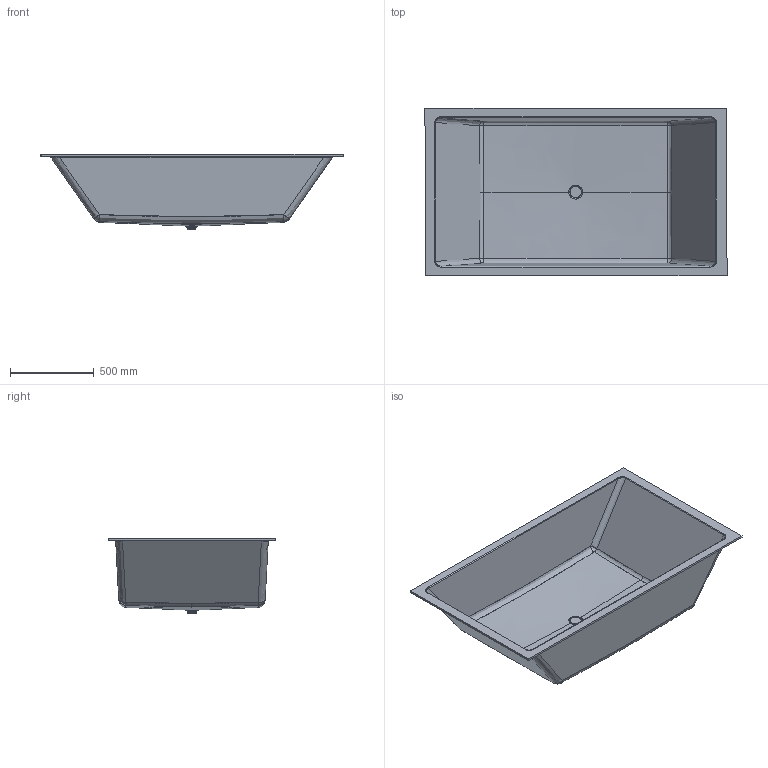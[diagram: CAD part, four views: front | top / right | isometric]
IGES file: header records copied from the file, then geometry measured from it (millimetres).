
Global section: file name: D:\Desktop\GIOVANNI\SCHEDE PRODOTTO\VASCHE\VASCHE DA INCASSO\MIAMI INCA\3D\MIAMI INCA.igs; native system: Rhinoceros ( Jan 17 2018 ); preprocessor: Trout Lake IGES 012 Jan 17 2018; date: 230526.153835; units: millimetre
Bounding box: 1804.17 x 1000.55 x 450.96 mm (x, y, z)
Surface area: 6280664.9 mm2 (no closed solid volume)
Topology: 0 solids, 0 shells, 82 faces, 1363 edges, 1362 vertices
Faces by surface type: bspline 82
